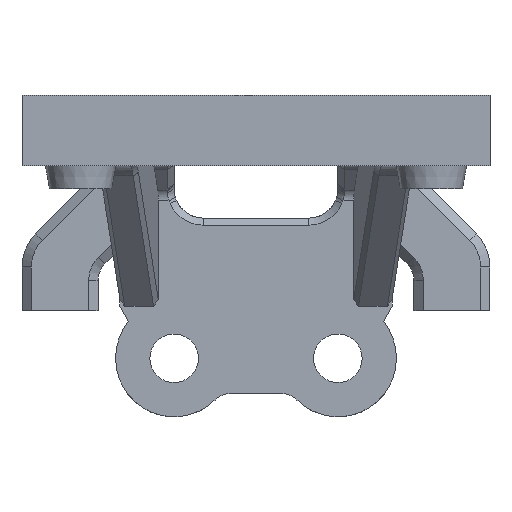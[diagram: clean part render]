
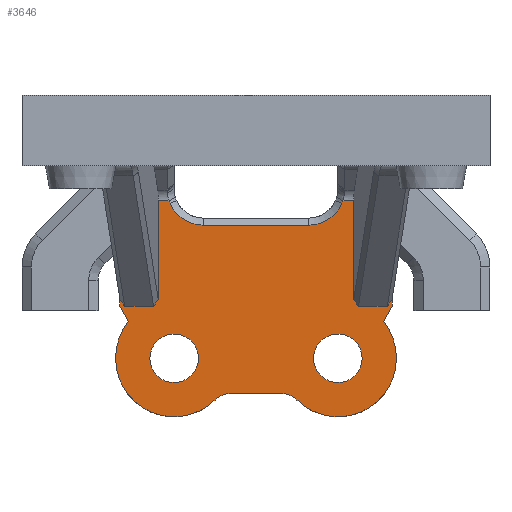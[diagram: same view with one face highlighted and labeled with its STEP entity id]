
A CAD part, front view. The second image highlights one B-rep face of the part: STEP entity #3646.
In plain terms, the highlighted planar face has unit normal (0, -1, 0).
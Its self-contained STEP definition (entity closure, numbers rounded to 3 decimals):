
#27=FACE_BOUND('',#715,.T.);
#28=FACE_BOUND('',#716,.T.);
#100=CIRCLE('',#3862,2.075);
#103=CIRCLE('',#3867,2.075);
#130=CIRCLE('',#3945,2.);
#131=CIRCLE('',#3947,2.);
#132=CIRCLE('',#3951,5.);
#133=CIRCLE('',#3953,5.);
#134=CIRCLE('',#3955,3.1);
#135=CIRCLE('',#3956,3.1);
#320=PLANE('',#3954);
#503=FACE_OUTER_BOUND('',#714,.T.);
#714=EDGE_LOOP('',(#3201,#3202,#3203,#3204,#3205,#3206,#3207,#3208,#3209,
#3210,#3211,#3212,#3213,#3214,#3215,#3216,#3217,#3218,#3219,#3220,#3221,
#3222,#3223,#3224));
#715=EDGE_LOOP('',(#3225));
#716=EDGE_LOOP('',(#3226));
#764=LINE('',#5045,#1137);
#768=LINE('',#5077,#1141);
#781=LINE('',#5143,#1154);
#787=LINE('',#5177,#1160);
#789=LINE('',#5224,#1162);
#793=LINE('',#5256,#1166);
#797=LINE('',#5308,#1170);
#803=LINE('',#5342,#1176);
#951=LINE('',#5752,#1324);
#1078=LINE('',#6128,#1451);
#1081=LINE('',#6138,#1454);
#1082=LINE('',#6140,#1455);
#1083=LINE('',#6142,#1456);
#1084=LINE('',#6151,#1457);
#1085=LINE('',#6159,#1458);
#1086=LINE('',#6160,#1459);
#1137=VECTOR('',#4010,10.);
#1141=VECTOR('',#4016,10.);
#1154=VECTOR('',#4031,10.);
#1160=VECTOR('',#4041,10.);
#1162=VECTOR('',#4045,10.);
#1166=VECTOR('',#4051,10.);
#1170=VECTOR('',#4061,10.);
#1176=VECTOR('',#4071,10.);
#1324=VECTOR('',#4475,10.);
#1451=VECTOR('',#4836,10.);
#1454=VECTOR('',#4849,10.);
#1455=VECTOR('',#4850,10.);
#1456=VECTOR('',#4851,10.);
#1457=VECTOR('',#4854,10.);
#1458=VECTOR('',#4857,10.);
#1459=VECTOR('',#4858,10.);
#1535=B_SPLINE_CURVE_WITH_KNOTS('',3,(#6144,#6145,#6146,#6147),
 .UNSPECIFIED.,.F.,.F.,(4,4),(-0.184,-0.164),
 .UNSPECIFIED.);
#1536=B_SPLINE_CURVE_WITH_KNOTS('',3,(#6155,#6156,#6157,#6158),
 .UNSPECIFIED.,.F.,.F.,(4,4),(-0.632,-0.612),
 .UNSPECIFIED.);
#1553=VERTEX_POINT('',#5043);
#1554=VERTEX_POINT('',#5044);
#1557=VERTEX_POINT('',#5076);
#1572=VERTEX_POINT('',#5141);
#1573=VERTEX_POINT('',#5142);
#1580=VERTEX_POINT('',#5222);
#1581=VERTEX_POINT('',#5223);
#1584=VERTEX_POINT('',#5255);
#1592=VERTEX_POINT('',#5306);
#1593=VERTEX_POINT('',#5307);
#1729=VERTEX_POINT('',#5750);
#1766=VERTEX_POINT('',#5882);
#1769=VERTEX_POINT('',#5892);
#1830=VERTEX_POINT('',#6115);
#1831=VERTEX_POINT('',#6117);
#1832=VERTEX_POINT('',#6121);
#1833=VERTEX_POINT('',#6123);
#1834=VERTEX_POINT('',#6130);
#1835=VERTEX_POINT('',#6134);
#1836=VERTEX_POINT('',#6139);
#1837=VERTEX_POINT('',#6141);
#1838=VERTEX_POINT('',#6143);
#1839=VERTEX_POINT('',#6148);
#1840=VERTEX_POINT('',#6150);
#1841=VERTEX_POINT('',#6152);
#1842=VERTEX_POINT('',#6154);
#1878=EDGE_CURVE('',#1553,#1554,#764,.T.);
#1884=EDGE_CURVE('',#1557,#1553,#768,.T.);
#1900=EDGE_CURVE('',#1572,#1573,#781,.F.);
#1908=EDGE_CURVE('',#1554,#1573,#787,.T.);
#1913=EDGE_CURVE('',#1580,#1581,#789,.F.);
#1919=EDGE_CURVE('',#1584,#1581,#793,.T.);
#1928=EDGE_CURVE('',#1592,#1593,#797,.F.);
#1936=EDGE_CURVE('',#1580,#1593,#803,.T.);
#2141=EDGE_CURVE('',#1592,#1729,#951,.T.);
#2197=EDGE_CURVE('',#1766,#1766,#100,.T.);
#2202=EDGE_CURVE('',#1769,#1769,#103,.T.);
#2313=EDGE_CURVE('',#1830,#1831,#130,.T.);
#2316=EDGE_CURVE('',#1832,#1833,#131,.T.);
#2318=EDGE_CURVE('',#1833,#1830,#1078,.T.);
#2319=EDGE_CURVE('',#1834,#1831,#132,.T.);
#2322=EDGE_CURVE('',#1832,#1835,#133,.T.);
#2323=EDGE_CURVE('',#1835,#1557,#1081,.T.);
#2324=EDGE_CURVE('',#1572,#1836,#1082,.T.);
#2325=EDGE_CURVE('',#1837,#1836,#1083,.T.);
#2326=EDGE_CURVE('',#1838,#1837,#1535,.T.);
#2327=EDGE_CURVE('',#1839,#1838,#134,.T.);
#2328=EDGE_CURVE('',#1840,#1839,#1084,.T.);
#2329=EDGE_CURVE('',#1841,#1840,#135,.T.);
#2330=EDGE_CURVE('',#1842,#1841,#1536,.T.);
#2331=EDGE_CURVE('',#1584,#1842,#1085,.T.);
#2332=EDGE_CURVE('',#1834,#1729,#1086,.T.);
#3201=ORIENTED_EDGE('',*,*,#2323,.T.);
#3202=ORIENTED_EDGE('',*,*,#1884,.T.);
#3203=ORIENTED_EDGE('',*,*,#1878,.T.);
#3204=ORIENTED_EDGE('',*,*,#1908,.T.);
#3205=ORIENTED_EDGE('',*,*,#1900,.F.);
#3206=ORIENTED_EDGE('',*,*,#2324,.T.);
#3207=ORIENTED_EDGE('',*,*,#2325,.F.);
#3208=ORIENTED_EDGE('',*,*,#2326,.F.);
#3209=ORIENTED_EDGE('',*,*,#2327,.F.);
#3210=ORIENTED_EDGE('',*,*,#2328,.F.);
#3211=ORIENTED_EDGE('',*,*,#2329,.F.);
#3212=ORIENTED_EDGE('',*,*,#2330,.F.);
#3213=ORIENTED_EDGE('',*,*,#2331,.F.);
#3214=ORIENTED_EDGE('',*,*,#1919,.T.);
#3215=ORIENTED_EDGE('',*,*,#1913,.F.);
#3216=ORIENTED_EDGE('',*,*,#1936,.T.);
#3217=ORIENTED_EDGE('',*,*,#1928,.F.);
#3218=ORIENTED_EDGE('',*,*,#2141,.T.);
#3219=ORIENTED_EDGE('',*,*,#2332,.F.);
#3220=ORIENTED_EDGE('',*,*,#2319,.T.);
#3221=ORIENTED_EDGE('',*,*,#2313,.F.);
#3222=ORIENTED_EDGE('',*,*,#2318,.F.);
#3223=ORIENTED_EDGE('',*,*,#2316,.F.);
#3224=ORIENTED_EDGE('',*,*,#2322,.T.);
#3225=ORIENTED_EDGE('',*,*,#2197,.T.);
#3226=ORIENTED_EDGE('',*,*,#2202,.T.);
#3646=ADVANCED_FACE('',(#503,#27,#28),#320,.T.);
#3862=AXIS2_PLACEMENT_3D('',#5884,#4571,#4572);
#3867=AXIS2_PLACEMENT_3D('',#5894,#4583,#4584);
#3945=AXIS2_PLACEMENT_3D('',#6118,#4823,#4824);
#3947=AXIS2_PLACEMENT_3D('',#6124,#4829,#4830);
#3951=AXIS2_PLACEMENT_3D('',#6131,#4839,#4840);
#3953=AXIS2_PLACEMENT_3D('',#6136,#4845,#4846);
#3954=AXIS2_PLACEMENT_3D('',#6137,#4847,#4848);
#3955=AXIS2_PLACEMENT_3D('',#6149,#4852,#4853);
#3956=AXIS2_PLACEMENT_3D('',#6153,#4855,#4856);
#4010=DIRECTION('',(-0.582,0.,-0.813));
#4016=DIRECTION('',(0.,0.,1.));
#4031=DIRECTION('',(-0.582,0.,0.813));
#4041=DIRECTION('',(-1.,0.,0.));
#4045=DIRECTION('',(-0.582,0.,-0.813));
#4051=DIRECTION('',(0.,0.,-1.));
#4061=DIRECTION('',(-0.582,0.,0.813));
#4071=DIRECTION('',(-1.,0.,0.));
#4475=DIRECTION('',(0.,0.,-1.));
#4571=DIRECTION('center_axis',(0.,1.,0.));
#4572=DIRECTION('ref_axis',(0.,0.,1.));
#4583=DIRECTION('center_axis',(0.,1.,0.));
#4584=DIRECTION('ref_axis',(0.,0.,1.));
#4823=DIRECTION('center_axis',(0.,-1.,0.));
#4824=DIRECTION('ref_axis',(-0.378,0.,0.926));
#4829=DIRECTION('center_axis',(0.,-1.,0.));
#4830=DIRECTION('ref_axis',(0.378,0.,0.926));
#4836=DIRECTION('',(-1.,0.,0.));
#4839=DIRECTION('center_axis',(0.,-1.,0.));
#4840=DIRECTION('ref_axis',(1.,0.,0.));
#4845=DIRECTION('center_axis',(0.,-1.,0.));
#4846=DIRECTION('ref_axis',(1.,0.,0.));
#4847=DIRECTION('center_axis',(0.,-1.,0.));
#4848=DIRECTION('ref_axis',(1.,0.,0.));
#4849=DIRECTION('',(0.473,0.,0.881));
#4850=DIRECTION('',(0.,0.,1.));
#4851=DIRECTION('',(1.,0.,0.));
#4852=DIRECTION('center_axis',(0.,-1.,0.));
#4853=DIRECTION('ref_axis',(0.707,0.,-0.707));
#4854=DIRECTION('',(1.,0.,0.));
#4855=DIRECTION('center_axis',(0.,-1.,0.));
#4856=DIRECTION('ref_axis',(-0.707,0.,-0.707));
#4857=DIRECTION('',(1.,0.,0.));
#4858=DIRECTION('',(-0.473,0.,0.881));
#5043=CARTESIAN_POINT('',(-8.375,-13.3,25.409));
#5044=CARTESIAN_POINT('',(-8.777,-13.3,24.847));
#5045=CARTESIAN_POINT('',(-6.276,-13.3,28.341));
#5076=CARTESIAN_POINT('',(-8.375,-13.3,24.847));
#5077=CARTESIAN_POINT('',(-8.375,-13.3,36.875));
#5141=CARTESIAN_POINT('',(-11.648,-13.3,25.409));
#5142=CARTESIAN_POINT('',(-11.245,-13.3,24.847));
#5143=CARTESIAN_POINT('',(-18.176,-13.3,34.53));
#5177=CARTESIAN_POINT('',(-15.051,-13.3,24.847));
#5222=CARTESIAN_POINT('',(-28.755,-13.3,24.847));
#5223=CARTESIAN_POINT('',(-28.352,-13.3,25.409));
#5224=CARTESIAN_POINT('',(-23.045,-13.3,32.824));
#5255=CARTESIAN_POINT('',(-28.352,-13.3,33.878));
#5256=CARTESIAN_POINT('',(-28.352,-13.3,33.868));
#5306=CARTESIAN_POINT('',(-31.625,-13.3,25.409));
#5307=CARTESIAN_POINT('',(-31.223,-13.3,24.847));
#5308=CARTESIAN_POINT('',(-34.945,-13.3,30.048));
#5342=CARTESIAN_POINT('',(-28.555,-13.3,24.847));
#5750=CARTESIAN_POINT('',(-31.625,-13.3,24.847));
#5752=CARTESIAN_POINT('',(-31.625,-13.3,36.875));
#5882=CARTESIAN_POINT('',(-13.,-13.3,18.325));
#5884=CARTESIAN_POINT('Origin',(-13.,-13.3,20.4));
#5892=CARTESIAN_POINT('',(-27.,-13.3,18.325));
#5894=CARTESIAN_POINT('Origin',(-27.,-13.3,20.4));
#6115=CARTESIAN_POINT('',(-22.101,-13.3,17.4));
#6117=CARTESIAN_POINT('',(-23.5,-13.3,16.829));
#6118=CARTESIAN_POINT('Origin',(-22.101,-13.3,15.4));
#6121=CARTESIAN_POINT('',(-16.5,-13.3,16.829));
#6123=CARTESIAN_POINT('',(-17.899,-13.3,17.4));
#6124=CARTESIAN_POINT('Origin',(-17.899,-13.3,15.4));
#6128=CARTESIAN_POINT('',(-8.375,-13.3,17.4));
#6130=CARTESIAN_POINT('',(-30.91,-13.3,23.516));
#6131=CARTESIAN_POINT('Origin',(-27.,-13.3,20.4));
#6134=CARTESIAN_POINT('',(-9.09,-13.3,23.516));
#6136=CARTESIAN_POINT('Origin',(-13.,-13.3,20.4));
#6137=CARTESIAN_POINT('Origin',(-23.606,-13.3,36.875));
#6138=CARTESIAN_POINT('',(-9.573,-13.3,22.616));
#6139=CARTESIAN_POINT('',(-11.648,-13.3,33.878));
#6140=CARTESIAN_POINT('',(-11.648,-13.3,33.868));
#6141=CARTESIAN_POINT('',(-12.565,-13.3,33.878));
#6142=CARTESIAN_POINT('',(-22.704,-13.3,33.878));
#6143=CARTESIAN_POINT('',(-12.657,-13.3,33.639));
#6144=CARTESIAN_POINT('Ctrl Pts',(-12.657,-13.3,33.639));
#6145=CARTESIAN_POINT('Ctrl Pts',(-12.624,-13.3,33.715));
#6146=CARTESIAN_POINT('Ctrl Pts',(-12.593,-13.3,33.795));
#6147=CARTESIAN_POINT('Ctrl Pts',(-12.565,-13.3,33.878));
#6148=CARTESIAN_POINT('',(-15.5,-13.3,31.775));
#6149=CARTESIAN_POINT('Origin',(-15.5,-13.3,34.875));
#6150=CARTESIAN_POINT('',(-24.5,-13.3,31.775));
#6151=CARTESIAN_POINT('',(-25.303,-13.3,31.775));
#6152=CARTESIAN_POINT('',(-27.343,-13.3,33.639));
#6153=CARTESIAN_POINT('Origin',(-24.5,-13.3,34.875));
#6154=CARTESIAN_POINT('',(-27.435,-13.3,33.878));
#6155=CARTESIAN_POINT('Ctrl Pts',(-27.435,-13.3,33.878));
#6156=CARTESIAN_POINT('Ctrl Pts',(-27.407,-13.3,33.795));
#6157=CARTESIAN_POINT('Ctrl Pts',(-27.376,-13.3,33.715));
#6158=CARTESIAN_POINT('Ctrl Pts',(-27.343,-13.3,33.639));
#6159=CARTESIAN_POINT('',(-22.704,-13.3,33.878));
#6160=CARTESIAN_POINT('',(-31.234,-13.3,24.119));
